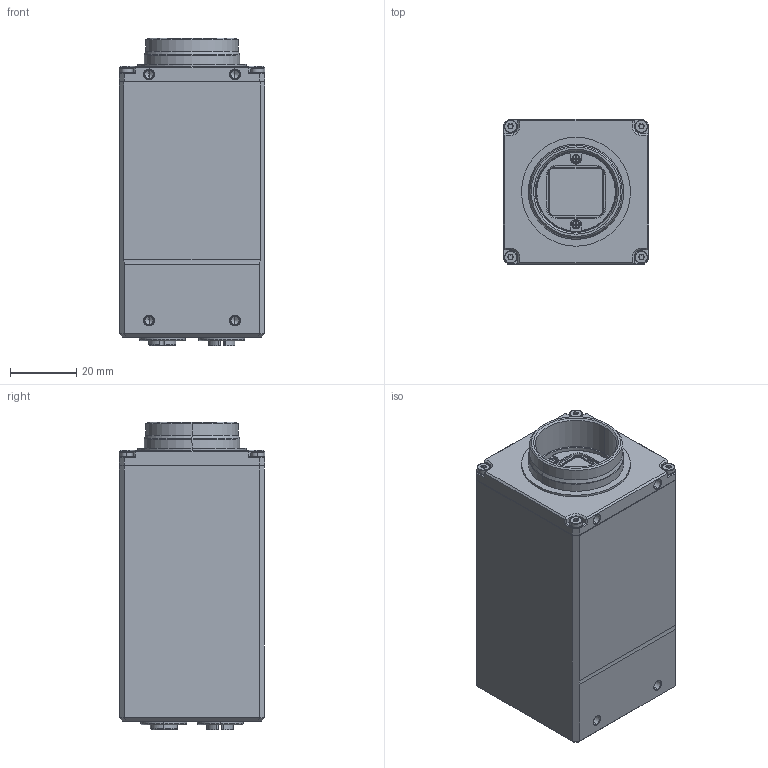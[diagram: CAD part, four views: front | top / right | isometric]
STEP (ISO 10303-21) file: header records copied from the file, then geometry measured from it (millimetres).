
FILE_DESCRIPTION (( 'STEP AP203' ), '1' );
FILE_NAME ('598-460-A_LW.STEP', '2024-12-20T22:12:51', ( '' ), ( '' ), 'SwSTEP 2.0', 'SolidWorks 2021', '' );
FILE_SCHEMA (( 'CONFIG_CONTROL_DESIGN' ));
Length unit declared in the file: millimetre
Products named in the file (1): 598-460-A_LW
Bounding box: 44 x 44 x 93.2 mm (x, y, z)
Volume: 156949.9 mm3; surface area: 22155.9 mm2
Topology: 3 solids, 9 shells, 780 faces, 1817 edges, 1138 vertices
Faces by surface type: cylinder 331, plane 307, cone 108, torus 26, bspline 8
Entity records: 22462 total; most frequent: DIRECTION 4141, CARTESIAN_POINT 4046, ORIENTED_EDGE 3594, EDGE_CURVE 1797, AXIS2_PLACEMENT_3D 1629, VERTEX_POINT 1138, EDGE_LOOP 899, VECTOR 883
